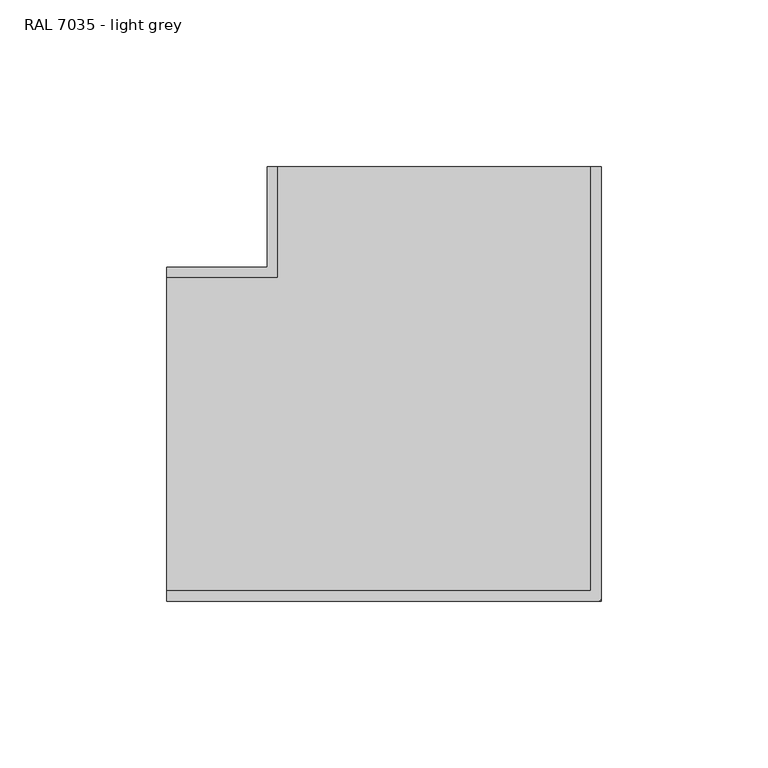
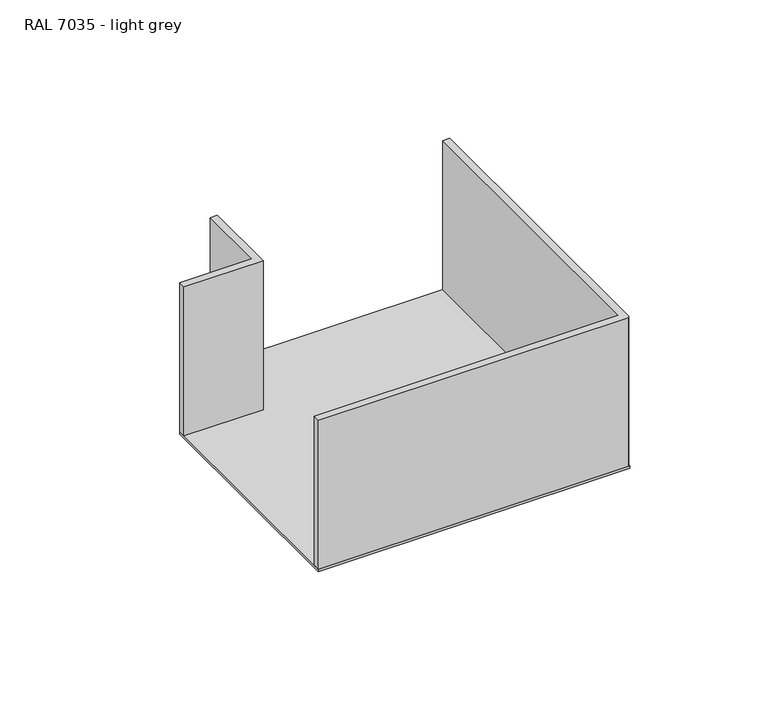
"""IFC4 building model written with IfcOpenShell, lengths in millimetres: cable carrier fitting geometry, Electrical_Installations_Hager_BRP-Flat-Corner-PC-ABS-Vertical-Inside-And-Outside-Bend-One-Compartment : RAL 7035 - light grey."""

import ifcopenshell
import ifcopenshell.guid

model = None  # the IFC model being written
_history = None  # IfcOwnerHistory: only IFC2X3 demands one
_inside = {}  # id of a spatial element -> (the spatial element, [elements in it])
_under = {}  # id of a project, library or spatial element -> (it, [spatial elements below it])
_declared = {}  # id of a project -> (the project, [libraries it declares])
_typed = {}  # id of a type object -> (the type object, [elements of that type])
_made_of = {}  # id of a material, layer set ... -> (it, [elements and type objects made of it])


def new_model(schema):
    """Start an empty IFC model of exactly this schema.

    Asked for "IFC4X3", IfcOpenShell would pick the latest addendum, in which some entities
    have other attributes; the version numbers below select the first issue.
    IFC2X3 requires an IfcOwnerHistory on every rooted entity: one is made here for all.
    """
    global model, _history
    if schema == "IFC4X3":
        model = ifcopenshell.file(schema_version=(4, 3, 0, 0))
    else:
        model = ifcopenshell.file(schema=schema)
    _inside.clear()
    _under.clear()
    _declared.clear()
    _typed.clear()
    _made_of.clear()
    _history = None
    if model.schema == "IFC2X3":
        org = make("IfcOrganization", Name="unknown")
        user = make(
            "IfcPersonAndOrganization",
            ThePerson=make("IfcPerson", FamilyName="unknown"),
            TheOrganization=org,
        )
        app = make(
            "IfcApplication",
            ApplicationDeveloper=org,
            Version="unknown",
            ApplicationFullName="unknown",
            ApplicationIdentifier="unknown",
        )
        _history = make(
            "IfcOwnerHistory",
            OwningUser=user,
            OwningApplication=app,
            ChangeAction="ADDED",
            CreationDate=0,
        )
    return model


def make(cls, **values):
    """One entity of the class cls with the attributes given. An attribute that is None is left unset."""
    return model.create_entity(
        cls, **{name: value for name, value in values.items() if value is not None}
    )


def rooted(cls, **values):
    """An entity with a GlobalId (a new one), such as an element, a storey or a relation."""
    return make(cls, GlobalId=ifcopenshell.guid.new(), OwnerHistory=_history, **values)


def si_unit(unit_type, name, prefix=None):
    """IfcSIUnit, for example si_unit("LENGTHUNIT", "METRE", prefix="MILLI")."""
    return make("IfcSIUnit", UnitType=unit_type, Prefix=prefix, Name=name)


def assignment(units):
    """IfcUnitAssignment: the units of a project."""
    return None if units is None else make("IfcUnitAssignment", Units=units)


def point(xyz):
    """IfcCartesianPoint."""
    return None if xyz is None else make("IfcCartesianPoint", Coordinates=xyz)


def direction(xyz):
    """IfcDirection."""
    return None if xyz is None else make("IfcDirection", DirectionRatios=xyz)


def frame(location, z_axis=None, x_axis=None):
    """IfcAxis2Placement3D, a coordinate frame: its origin and axes. An axis left out is left unset."""
    return make(
        "IfcAxis2Placement3D",
        Location=point(location),
        Axis=direction(z_axis),
        RefDirection=direction(x_axis),
    )


def frame_2d(location, x_axis=None):
    """IfcAxis2Placement2D, a coordinate frame in the plane: its origin and x axis."""
    return make(
        "IfcAxis2Placement2D", Location=point(location), RefDirection=direction(x_axis)
    )


def origin():
    """The frame at (0, 0, 0) with its axes left unset."""
    return frame((0.0, 0.0, 0.0))


def place(relative_to, where):
    """IfcLocalPlacement: puts the frame where relative to a parent placement (None: the world)."""
    return make(
        "IfcLocalPlacement", PlacementRelTo=relative_to, RelativePlacement=where
    )


def context(
    kind, dimensions, precision=None, world=None, true_north=None, identifier=None
):
    """IfcGeometricRepresentationContext, for example the 3D "Model" context."""
    return make(
        "IfcGeometricRepresentationContext",
        ContextIdentifier=identifier,
        ContextType=kind,
        CoordinateSpaceDimension=dimensions,
        Precision=precision,
        WorldCoordinateSystem=world,
        TrueNorth=true_north,
    )


def project(units=None, contexts=None):
    """IfcProject with its units and contexts."""
    return rooted(
        "IfcProject",
        Name="project",
        RepresentationContexts=contexts,
        UnitsInContext=assignment(units),
    )


def spatial(cls, under=None, at=None, **own):
    """A site, building, storey or space (cls), placed at a placement, below another one or the project."""
    s = rooted(cls, ObjectPlacement=at, **own)
    if under is not None:
        _under.setdefault(under.id(), (under, []))[1].append(s)
    return s


def polyline(points):
    """IfcPolyline through the points."""
    return make("IfcPolyline", Points=[point(p) for p in points])


def circle_curve(where, radius):
    """IfcCircle in the frame where."""
    return make("IfcCircle", Position=where, Radius=radius)


def trimmed(basis, trim1, trim2, sense, master):
    """IfcTrimmedCurve: the piece of a basis curve between two trims."""
    return make(
        "IfcTrimmedCurve",
        BasisCurve=basis,
        Trim1=trim1,
        Trim2=trim2,
        SenseAgreement=sense,
        MasterRepresentation=master,
    )


def segment(curve, same_sense, transition):
    """IfcCompositeCurveSegment."""
    return make(
        "IfcCompositeCurveSegment",
        Transition=transition,
        SameSense=same_sense,
        ParentCurve=curve,
    )


def composite_curve(segments, self_intersect=None):
    """IfcCompositeCurve: segments joined end to end."""
    return make("IfcCompositeCurve", Segments=segments, SelfIntersect=self_intersect)


def outline(outer, holes=None, kind="AREA"):
    """IfcArbitraryClosedProfileDef: a profile drawn as a closed curve; with holes, ...WithVoids."""
    if holes is None:
        return make("IfcArbitraryClosedProfileDef", ProfileType=kind, OuterCurve=outer)
    return make(
        "IfcArbitraryProfileDefWithVoids",
        ProfileType=kind,
        OuterCurve=outer,
        InnerCurves=holes,
    )


def extrude(swept, where, along, depth):
    """IfcExtrudedAreaSolid: the profile swept, set in the frame where, extruded along a direction by depth."""
    return make(
        "IfcExtrudedAreaSolid",
        SweptArea=swept,
        Position=where,
        ExtrudedDirection=direction(along),
        Depth=depth,
    )


def shape(context_of_items, identifier, shape_type, items):
    """IfcShapeRepresentation: the items that make up one representation, for example the "Body"."""
    return make(
        "IfcShapeRepresentation",
        ContextOfItems=context_of_items,
        RepresentationIdentifier=identifier,
        RepresentationType=shape_type,
        Items=items,
    )


def source(mapping_origin, context_of_items, identifier, shape_type, items):
    """IfcRepresentationMap: a shape defined once, which mapped items show again and again."""
    return make(
        "IfcRepresentationMap",
        MappingOrigin=mapping_origin,
        MappedRepresentation=shape(context_of_items, identifier, shape_type, items),
    )


def transform(
    local_origin,
    x_axis=None,
    y_axis=None,
    z_axis=None,
    scale=None,
    scale2=None,
    scale3=None,
    uniform=True,
):
    """IfcCartesianTransformationOperator3D, or its non-uniform kind. x_axis, y_axis, z_axis: its Axis1, 2, 3."""
    if uniform:
        return make(
            "IfcCartesianTransformationOperator3D",
            Axis1=direction(x_axis),
            Axis2=direction(y_axis),
            LocalOrigin=point(local_origin),
            Scale=scale,
            Axis3=direction(z_axis),
        )
    return make(
        "IfcCartesianTransformationOperator3DnonUniform",
        Axis1=direction(x_axis),
        Axis2=direction(y_axis),
        LocalOrigin=point(local_origin),
        Scale=scale,
        Axis3=direction(z_axis),
        Scale2=scale2,
        Scale3=scale3,
    )


def mapped(mapping_source, mapping_target):
    """IfcMappedItem: shows the shape of a source again, moved by a transform."""
    return make(
        "IfcMappedItem", MappingSource=mapping_source, MappingTarget=mapping_target
    )


def made_of(thing, what):
    """Note that an element or type object is made of a material, layer set ...; save() writes the relation."""
    if what is not None:
        _made_of.setdefault(what.id(), (what, []))[1].append(thing)
    return thing


def element(
    cls,
    number,
    at=None,
    inside=None,
    cuts=None,
    type_object=None,
    material=None,
    context=None,
    identifier="Body",
    shape_type=None,
    held_by="IfcProductDefinitionShape",
    body=None,
    shapes=None,
    **own,
):
    """One element of the class cls, such as IfcWall. Its Tag is "e" and its number.

    at: its placement. inside: the storey or other place that contains it. cuts: it is an
    opening in that element (IfcRelVoidsElement). A single representation is given by context,
    identifier, shape_type and body (its items); several are given by shapes. held_by: the class
    of the entity that holds the representations. save() writes the other relations.
    """
    e = rooted(cls, Tag="e%d" % number, ObjectPlacement=at, **own)
    if body is not None:
        shapes = [shape(context, identifier, shape_type, body)]
    if shapes is not None:
        e.Representation = make(held_by, Representations=shapes)
    if inside is not None:
        _inside.setdefault(inside.id(), (inside, []))[1].append(e)
    if cuts is not None:
        rooted(
            "IfcRelVoidsElement", RelatingBuildingElement=cuts, RelatedOpeningElement=e
        )
    if type_object is not None:
        _typed.setdefault(type_object.id(), (type_object, []))[1].append(e)
    return made_of(e, material)


def aggregate(whole, parts):
    """IfcRelAggregates: a whole, such as a stair, and the parts it consists of."""
    return rooted("IfcRelAggregates", RelatingObject=whole, RelatedObjects=parts)


def save(model, path):
    """Write the relations noted so far, then the file.

    IfcRelAggregates (storeys below a building ...), IfcRelContainedInSpatialStructure (elements
    in a storey), IfcRelDefinesByType, IfcRelAssociatesMaterial and IfcRelDeclares: one each for
    every whole, place, type object, material and project.
    """
    for whole, parts in _under.values():
        aggregate(whole, parts)
    for where, things in _inside.values():
        rooted(
            "IfcRelContainedInSpatialStructure",
            RelatedElements=things,
            RelatingStructure=where,
        )
    for kind, things in _typed.values():
        rooted("IfcRelDefinesByType", RelatedObjects=things, RelatingType=kind)
    for what, things in _made_of.values():
        rooted("IfcRelAssociatesMaterial", RelatedObjects=things, RelatingMaterial=what)
    for by, libraries in _declared.values():
        rooted("IfcRelDeclares", RelatingContext=by, RelatedDefinitions=libraries)
    model.write(path)


def ral_7035_light_grey_8f8970fe(model_context):
    return source(origin(), model_context, "Body", "SweptSolid", [
        extrude(outline(composite_curve([segment(polyline([(49.3130803, -50.0), (-80.0, -50.0), (-80.0, -47.0), (47.0, -47.0), (47.0, 80.0), (50.0, 80.0), (50.0, -49.3130803)]), True, "CONTINUOUS"), segment(trimmed(circle_curve(frame_2d((49.3130803, -49.3130803)), 0.6869197), [point((50.0, -49.3130803))], [point((49.3130803, -50.0))], False, "CARTESIAN"), True, "CONTINUOUS")], self_intersect=False)), frame((0.0, 0.0, -32.8402081), z_axis=(0.0, 0.0, 1.0), x_axis=(1.0, 0.0, 0.0)), (0.0, 0.0, 1.0), 65.6804162),
        extrude(outline(polyline([(-50.0, 50.0), (-50.0, 80.0), (-47.0, 80.0), (-47.0, 47.0), (-80.0, 47.0), (-80.0, 50.0), (-50.0, 50.0)])), frame((0.0, 0.0, -32.8402081), z_axis=(0.0, 0.0, 1.0), x_axis=(1.0, 0.0, 0.0)), (0.0, 0.0, 1.0), 65.6804162),
        extrude(outline(polyline([(-50.0, 80.0), (50.0, 80.0), (50.0, -50.0), (-80.0, -50.0), (-80.0, 50.0), (-50.0, 50.0), (-50.0, 80.0)])), frame((0.0, 0.0, -34.0), z_axis=(0.0, 0.0, 1.0), x_axis=(1.0, 0.0, 0.0)), (0.0, 0.0, 1.0), 1.1597919),
    ])


if __name__ == "__main__":
    model = new_model("IFC4")
    model_context = context("Model", 3, world=origin())
    ifc_project = project(units=[si_unit("LENGTHUNIT", "METRE", prefix="MILLI")], contexts=[model_context])
    site = spatial("IfcSite", under=ifc_project)
    building = spatial("IfcBuilding", under=site)
    placement = place(None, origin())
    ral_7035_light_grey_shape = ral_7035_light_grey_8f8970fe(model_context)
    element("IfcCableCarrierFitting", 1, ObjectType="Electrical_Installations_Hager_BRP-Flat-Corner-PC-ABS-Vertical-Inside-And-Outside-Bend-One-Compartment : RAL 7035 - light grey", at=placement, inside=building, context=model_context, shape_type="MappedRepresentation", body=[
        mapped(ral_7035_light_grey_shape, transform((0.0, 0.0, 0.0), x_axis=(1.0, 0.0, 0.0), y_axis=(0.0, 1.0, 0.0), z_axis=(0.0, 0.0, 1.0))),
    ])
    save(model, "model.ifc")
